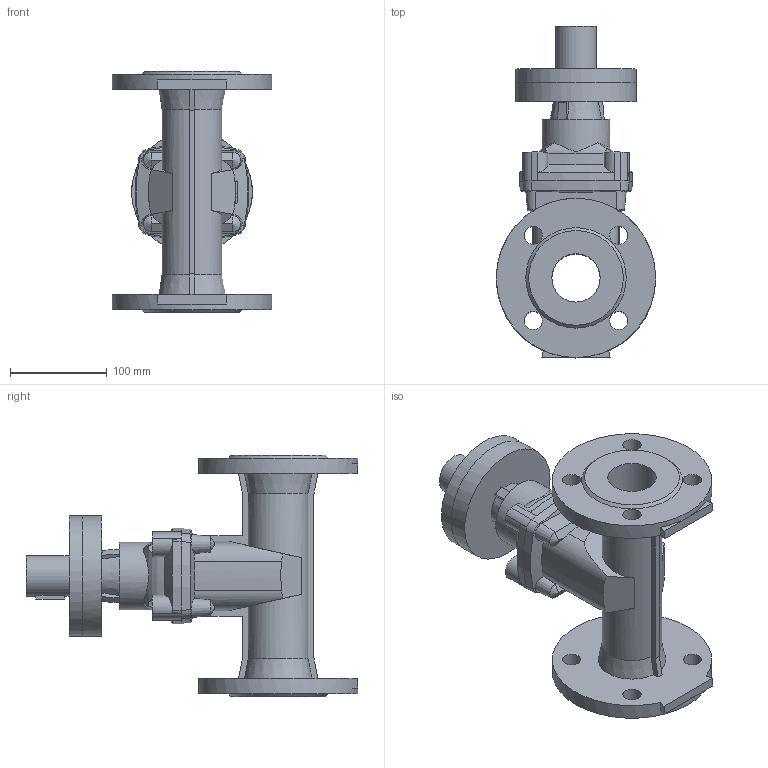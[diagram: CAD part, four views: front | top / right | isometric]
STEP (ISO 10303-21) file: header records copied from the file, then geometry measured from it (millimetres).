
FILE_DESCRIPTION (( 'STEP AP203' ), '1' );
FILE_NAME ('O_15_70_DN050_X1X_AA0.step', '2017-03-10T08:48:19', ( 'Windows User' ), ( 'AVK' ), 'SwSTEP 2.0', 'SolidWorks 2012', '' );
FILE_SCHEMA (( 'CONFIG_CONTROL_DESIGN' ));
Length unit declared in the file: millimetre
Products named in the file (1): O_15_70_DN050_X1X_AA0
Bounding box: 165 x 343.5 x 250 mm (x, y, z)
Volume: 2368564.8 mm3; surface area: 282076.2 mm2
Topology: 1 solids, 1 shells, 239 faces, 634 edges, 413 vertices
Faces by surface type: plane 123, cylinder 59, cone 51, torus 4, bspline 2
Full cylindrical faces by diameter (mm): 8.5 x4, 11.5 x4, 19 x8, 42 x1, 50 x1, 70 x1, 125 x2, 165 x2
Entity records: 8120 total; most frequent: CARTESIAN_POINT 2541, ORIENTED_EDGE 1168, DIRECTION 1068, EDGE_CURVE 584, AXIS2_PLACEMENT_3D 410, VERTEX_POINT 392, EDGE_LOOP 302, FACE_OUTER_BOUND 262
